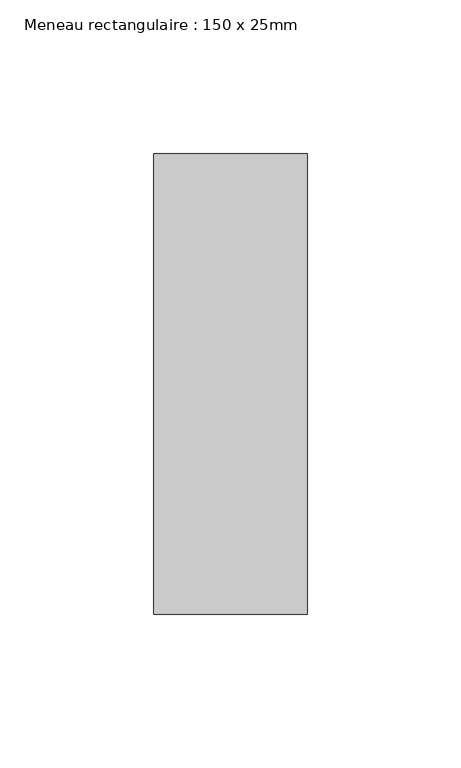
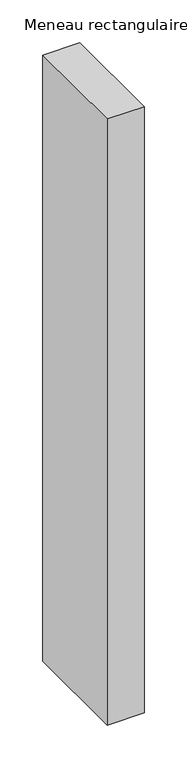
"""IFC4 building model written with IfcOpenShell, lengths in millimetres: member geometry, Meneau rectangulaire : 150 x 25mm."""

from ifc_helpers import new_model, si_unit, frame, origin, place, context, project, spatial, polyline, outline, extrude, source, transform, mapped, element, save


def meneau_rectangulaire_150_x_25mm_08a1fcba(model_context):
    return source(origin(), model_context, "Body", "SweptSolid", [
        extrude(outline(polyline([(0.0, 75.0), (0.0, -75.0), (-50.0, -75.0), (-50.0, 75.0), (0.0, 75.0)])), frame((0.0, 0.0, -864.0913455), z_axis=(0.0, 0.0, 1.0), x_axis=(1.0, 0.0, 0.0)), (0.0, 0.0, 1.0), 864.0913455),
    ])


if __name__ == "__main__":
    model = new_model("IFC4")
    model_context = context("Model", 3, world=origin())
    ifc_project = project(units=[si_unit("LENGTHUNIT", "METRE", prefix="MILLI")], contexts=[model_context])
    site = spatial("IfcSite", under=ifc_project)
    building = spatial("IfcBuilding", under=site)
    placement = place(None, origin())
    meneau_rectangulaire_150_x_25mm_shape = meneau_rectangulaire_150_x_25mm_08a1fcba(model_context)
    element("IfcMember", 1, ObjectType="Meneau rectangulaire : 150 x 25mm", at=placement, inside=building, context=model_context, shape_type="MappedRepresentation", body=[
        mapped(meneau_rectangulaire_150_x_25mm_shape, transform((0.0, 0.0, 0.0), x_axis=(1.0, 0.0, 0.0), y_axis=(0.0, 1.0, 0.0), z_axis=(0.0, 0.0, 1.0))),
    ])
    save(model, "model.ifc")
